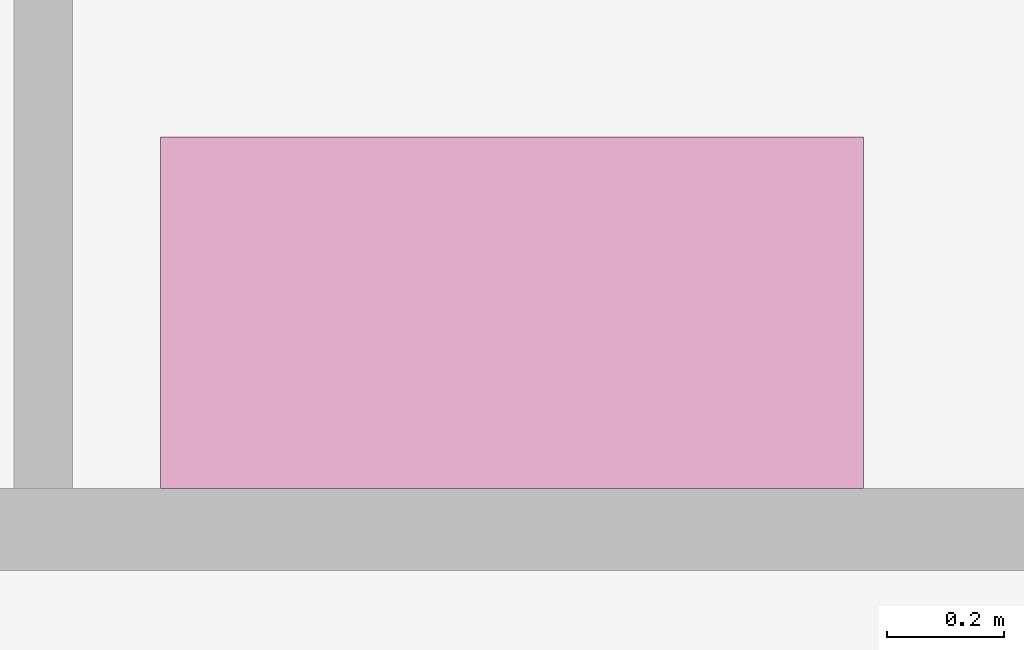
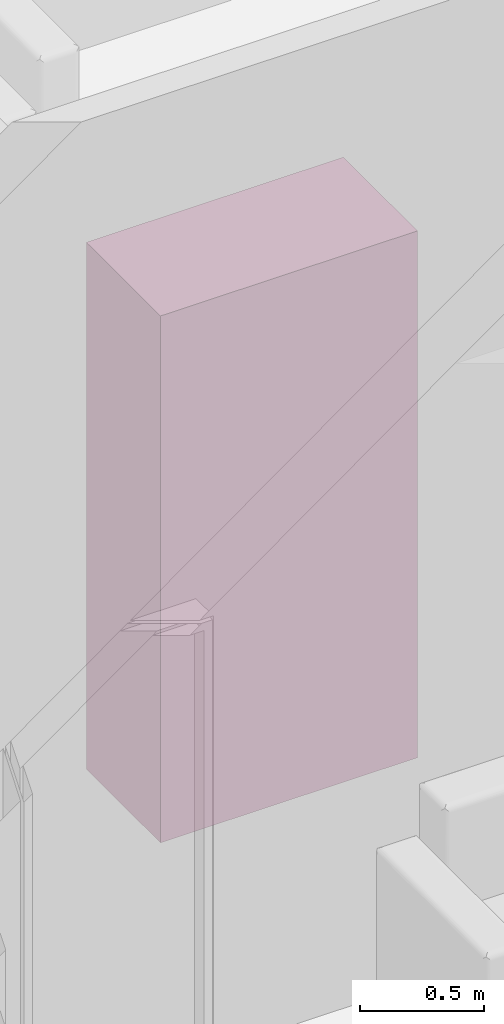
# One storey, part 60 of 71: 1 furniture element.
"""IFC4 building model written with IfcOpenShell, lengths in centimetres."""

from ifc_helpers import new_model, entity, si_unit, converted_unit, derived_unit, direction, frame, origin, place, context, subcontext, project, spatial, indexed_curve, outline, extrude, source, transform, mapped, material, type_object, type_shapes, element, save


model = new_model("IFC4")

# Units and contexts
model_context = context("Model", 3, precision=0.001, world=origin(), true_north=direction((6.123233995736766e-17, 1.0)))
body_context = subcontext(model_context, "Body", "Model", "MODEL_VIEW")
ifc_project = project(units=[si_unit("LENGTHUNIT", "METRE", prefix="CENTI"), si_unit("AREAUNIT", "SQUARE_METRE"), si_unit("VOLUMEUNIT", "CUBIC_METRE"), derived_unit("THERMALTRANSMITTANCEUNIT", [(si_unit("MASSUNIT", "GRAM", prefix="KILO"), 1), (si_unit("THERMODYNAMICTEMPERATUREUNIT", "KELVIN"), -1), (si_unit("TIMEUNIT", "SECOND"), -3)]), converted_unit("PLANEANGLEUNIT", "DEGREE", entity("IfcPlaneAngleMeasure", 0.017453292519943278), si_unit("PLANEANGLEUNIT", "RADIAN"), dimensions=[0, 0, 0, 0, 0, 0, 0]), derived_unit("MASSDENSITYUNIT", [(si_unit("MASSUNIT", "GRAM", prefix="KILO"), 1), (si_unit("LENGTHUNIT", "METRE"), -3)]), derived_unit("VAPORPERMEABILITYUNIT", [(si_unit("LENGTHUNIT", "METRE"), -1), (si_unit("TIMEUNIT", "SECOND"), 1)]), derived_unit("USERDEFINED", [(si_unit("MASSUNIT", "GRAM", prefix="KILO"), 1), (si_unit("TIMEUNIT", "SECOND"), -3), (si_unit("LENGTHUNIT", "METRE"), 3), (si_unit("ELECTRICCURRENTUNIT", "AMPERE"), -2)]), derived_unit("SPECIFICHEATCAPACITYUNIT", [(si_unit("THERMODYNAMICTEMPERATUREUNIT", "KELVIN"), -1), (si_unit("LENGTHUNIT", "METRE"), 2), (si_unit("TIMEUNIT", "SECOND"), -2)]), derived_unit("THERMALCONDUCTANCEUNIT", [(si_unit("MASSUNIT", "GRAM", prefix="KILO"), 1), (si_unit("THERMODYNAMICTEMPERATUREUNIT", "KELVIN"), -1), (si_unit("TIMEUNIT", "SECOND"), -3), (si_unit("LENGTHUNIT", "METRE"), 1)]), si_unit("PRESSUREUNIT", "PASCAL"), derived_unit("MODULUSOFELASTICITYUNIT", [(si_unit("MASSUNIT", "GRAM", prefix="KILO"), 1), (si_unit("LENGTHUNIT", "METRE"), -1), (si_unit("TIMEUNIT", "SECOND"), -2)]), derived_unit("THERMALEXPANSIONCOEFFICIENTUNIT", [(si_unit("THERMODYNAMICTEMPERATUREUNIT", "KELVIN"), -1)])], contexts=[model_context])

# Site, building, storey, space
site_placement = place(None, origin())
site = spatial("IfcSite", under=ifc_project, at=site_placement, Name="Default", CompositionType="ELEMENT")
building_placement = place(site_placement, origin())
building = spatial("IfcBuilding", under=site, at=building_placement, Name="IDS Escape Game Building", CompositionType="ELEMENT")
storey_placement = place(building_placement, frame((0.0, 0.0, 400.0)))
storey = spatial("IfcBuildingStorey", under=building, at=storey_placement, Name="01_First Floor", CompositionType="ELEMENT", Elevation=399.99999999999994)
space_placement = place(storey_placement, origin())
space = spatial("IfcSpace", under=storey, at=space_placement, Name="64", CompositionType="ELEMENT", PredefinedType="NOTDEFINED")

# Furniture
ifc_material = material(Name="<Unnamed>")
furniture_type = type_object("IfcFurnitureType", Name="BPL_82.11_CA_UN_kast_gen_BERSnl:type 1", AssemblyPlace="NOTDEFINED", PredefinedType="NOTDEFINED", material=ifc_material)
shared_shape = source(origin(), body_context, "Body", "SweptSolid", [
    extrude(outline(indexed_curve([(-59.99999999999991, -29.999999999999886), (59.99999999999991, -29.999999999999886), (59.99999999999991, 29.999999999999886), (-59.99999999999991, 29.999999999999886), (-59.99999999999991, -29.999999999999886)], self_intersect=False)), frame((-60.0, -30.0, 0.0), z_axis=(0.0, 0.0, 1.0), x_axis=(-1.0, 0.0, 0.0)), (0.0, 0.0, 1.0), 260.0),
])
type_shapes(furniture_type, [shared_shape])
furniture_placement = place(space_placement, frame((297.0, 2625.0, 0.0)))
element("IfcFurniture", 1, at=furniture_placement, inside=space, type_object=furniture_type, material=ifc_material, Name="BPL_82.11_CA_UN_kast_gen_BERSnl:type 1", ObjectType="BPL_82.11_CA_UN_kast_gen_BERSnl:type 1", PredefinedType="NOTDEFINED", context=body_context, shape_type="MappedRepresentation", body=[
    mapped(shared_shape, transform((0.0, 0.0, 0.0), scale=1.0)),
])

save(model, "model.ifc")
